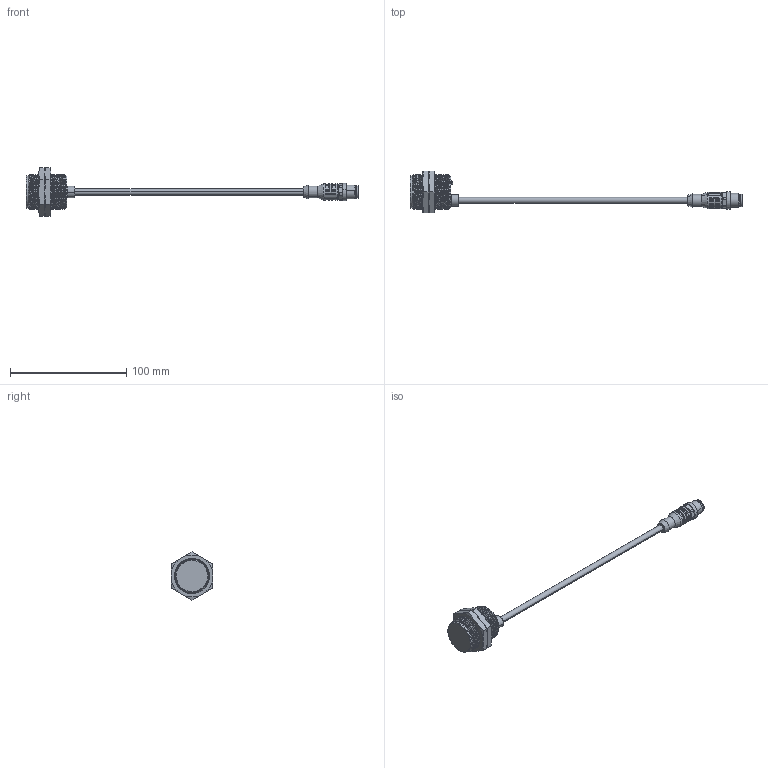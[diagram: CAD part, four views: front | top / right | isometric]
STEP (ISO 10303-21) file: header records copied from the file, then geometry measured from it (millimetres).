
FILE_DESCRIPTION((''),'2;1');
FILE_NAME('ASM0001_ASM','2025-01-14T11:15:59',('Rudolf.Poettker'),(''),'CREO PARAMETRIC BY PTC INC, 2022124','CREO PARAMETRIC BY PTC INC, 2022124','');
FILE_SCHEMA(('AUTOMOTIVE_DESIGN { 1 0 10303 214 1 1 1 1 }'));
Length unit declared in the file: millimetre
Products named in the file (3): 6490653412_SW0001; 4139100185; ASM0001_ASM
Assembly tree (2 placements, depth 2):
  ASM0001_ASM
    6490653412_SW0001
    4139100185
Bounding box: 285 x 36 x 41.57 mm (x, y, z)
Volume: 37622.9 mm3; surface area: 13437.9 mm2
Topology: 2 solids, 2 shells, 460 faces, 1183 edges, 745 vertices
Faces by surface type: cylinder 122, plane 122, extrusion 66, bspline 48, cone 45, torus 39, sphere 18
Entity records: 34232 total; most frequent: CARTESIAN_POINT 17995, ORIENTED_EDGE 2326, DIRECTION 1880, PRESENTATION_STYLE_ASSIGNMENT 1305, STYLED_ITEM 1176, CURVE_STYLE 1174, EDGE_CURVE 1163, VERTEX_POINT 744
